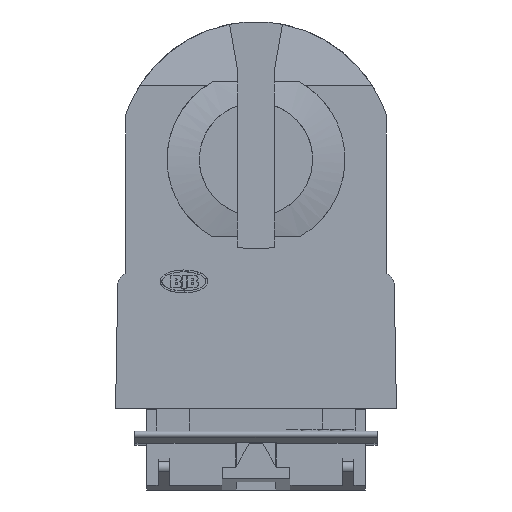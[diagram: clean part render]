
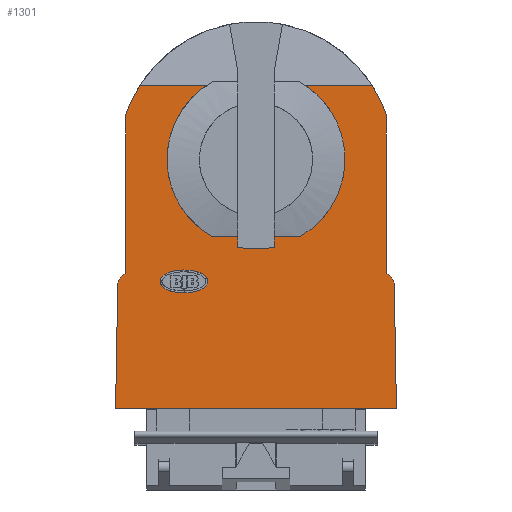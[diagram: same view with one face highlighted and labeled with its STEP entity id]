
A CAD part, front view. The second image highlights one B-rep face of the part: STEP entity #1301.
In plain terms, the highlighted planar face has unit normal (0, -1, 0).
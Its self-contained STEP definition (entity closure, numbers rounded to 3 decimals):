
#121=CARTESIAN_POINT(' ',(-12.4,0.,-22.));
#126=DIRECTION(' ',(1.,0.,0.));
#131=VECTOR(' ',#126,1.);
#136=LINE(' ',#121,#131);
#141=CARTESIAN_POINT(' ',(-12.4,0.,-22.));
#142=VERTEX_POINT(' ',#141);
#146=CARTESIAN_POINT(' ',(12.4,0.,-22.));
#147=VERTEX_POINT(' ',#146);
#151=EDGE_CURVE(' ',#142,#147,#136,.T.);
#466=CARTESIAN_POINT(' ',(-12.4,0.,6.479));
#471=DIRECTION(' ',(0.,-1.,0.));
#476=DIRECTION(' ',(0.,0.,-1.));
#481=AXIS2_PLACEMENT_3D(' ',#466,#471,#476);
#486=PLANE(' ',#481);
#491=CARTESIAN_POINT(' ',(0.,0.,0.));
#496=DIRECTION(' ',(0.,1.,0.));
#501=DIRECTION(' ',(0.202,0.,-0.979));
#506=AXIS2_PLACEMENT_3D(' ',#491,#496,#501);
#511=CIRCLE(' ',#506,7.925);
#516=CARTESIAN_POINT(' ',(1.6,0.,-7.762));
#517=VERTEX_POINT(' ',#516);
#521=CARTESIAN_POINT(' ',(-1.6,0.,-7.762));
#522=VERTEX_POINT(' ',#521);
#526=EDGE_CURVE(' ',#517,#522,#511,.T.);
#531=ORIENTED_EDGE(' ',*,*,#526,.T.);
#536=CARTESIAN_POINT(' ',(-1.6,0.,-7.762));
#541=DIRECTION(' ',(0.,0.,1.));
#546=VECTOR(' ',#541,1.);
#551=LINE(' ',#536,#546);
#556=CARTESIAN_POINT(' ',(-1.6,0.,-6.85));
#557=VERTEX_POINT(' ',#556);
#561=EDGE_CURVE(' ',#522,#557,#551,.T.);
#566=ORIENTED_EDGE(' ',*,*,#561,.T.);
#571=CARTESIAN_POINT(' ',(-1.6,0.,-6.85));
#576=DIRECTION(' ',(-1.,0.,0.));
#581=VECTOR(' ',#576,1.);
#586=LINE(' ',#571,#581);
#591=CARTESIAN_POINT(' ',(-3.834,0.,-6.85));
#592=VERTEX_POINT(' ',#591);
#596=EDGE_CURVE(' ',#557,#592,#586,.T.);
#601=ORIENTED_EDGE(' ',*,*,#596,.T.);
#606=CARTESIAN_POINT(' ',(0.,0.,0.));
#611=DIRECTION(' ',(0.,1.,0.));
#616=DIRECTION(' ',(-0.488,0.,-0.873));
#621=AXIS2_PLACEMENT_3D(' ',#606,#611,#616);
#626=CIRCLE(' ',#621,7.85);
#631=CARTESIAN_POINT(' ',(-4.433,0.,6.479));
#632=VERTEX_POINT(' ',#631);
#636=EDGE_CURVE(' ',#592,#632,#626,.T.);
#641=ORIENTED_EDGE(' ',*,*,#636,.T.);
#646=CARTESIAN_POINT(' ',(-4.433,0.,6.479));
#651=DIRECTION(' ',(-1.,0.,0.));
#656=VECTOR(' ',#651,1.);
#661=LINE(' ',#646,#656);
#666=CARTESIAN_POINT(' ',(-10.279,0.,6.479));
#667=VERTEX_POINT(' ',#666);
#671=EDGE_CURVE(' ',#632,#667,#661,.T.);
#676=ORIENTED_EDGE(' ',*,*,#671,.T.);
#681=CARTESIAN_POINT(' ',(0.,0.,0.));
#686=DIRECTION(' ',(0.,-1.,0.));
#691=DIRECTION(' ',(-0.846,0.,0.533));
#696=AXIS2_PLACEMENT_3D(' ',#681,#686,#691);
#701=CIRCLE(' ',#696,12.15);
#706=CARTESIAN_POINT(' ',(-11.5,0.,3.921));
#707=VERTEX_POINT(' ',#706);
#711=EDGE_CURVE(' ',#667,#707,#701,.T.);
#716=ORIENTED_EDGE(' ',*,*,#711,.T.);
#721=CARTESIAN_POINT(' ',(-11.5,0.,3.921));
#726=DIRECTION(' ',(0.,0.,-1.));
#731=VECTOR(' ',#726,1.);
#736=LINE(' ',#721,#731);
#741=CARTESIAN_POINT(' ',(-11.5,0.,-10.1));
#742=VERTEX_POINT(' ',#741);
#746=EDGE_CURVE(' ',#707,#742,#736,.T.);
#751=ORIENTED_EDGE(' ',*,*,#746,.T.);
#756=CARTESIAN_POINT(' ',(-11.11,0.,-11.129));
#761=DIRECTION(' ',(0.,-1.,0.));
#766=DIRECTION(' ',(-0.354,0.,0.935));
#771=AXIS2_PLACEMENT_3D(' ',#756,#761,#766);
#776=CIRCLE(' ',#771,1.1);
#781=CARTESIAN_POINT(' ',(-12.21,0.,-11.109));
#782=VERTEX_POINT(' ',#781);
#786=EDGE_CURVE(' ',#742,#782,#776,.T.);
#791=ORIENTED_EDGE(' ',*,*,#786,.T.);
#796=CARTESIAN_POINT(' ',(-12.21,0.,-11.109));
#801=DIRECTION(' ',(-0.017,0.,-1.));
#806=VECTOR(' ',#801,1.);
#811=LINE(' ',#796,#806);
#816=EDGE_CURVE(' ',#782,#142,#811,.T.);
#821=ORIENTED_EDGE(' ',*,*,#816,.T.);
#826=ORIENTED_EDGE(' ',*,*,#151,.T.);
#831=CARTESIAN_POINT(' ',(12.4,0.,-22.));
#836=DIRECTION(' ',(-0.017,0.,1.));
#841=VECTOR(' ',#836,1.);
#846=LINE(' ',#831,#841);
#851=CARTESIAN_POINT(' ',(12.21,0.,-11.109));
#852=VERTEX_POINT(' ',#851);
#856=EDGE_CURVE(' ',#147,#852,#846,.T.);
#861=ORIENTED_EDGE(' ',*,*,#856,.T.);
#866=CARTESIAN_POINT(' ',(11.11,0.,-11.129));
#871=DIRECTION(' ',(0.,-1.,0.));
#876=DIRECTION(' ',(1.,0.,0.017));
#881=AXIS2_PLACEMENT_3D(' ',#866,#871,#876);
#886=CIRCLE(' ',#881,1.1);
#891=CARTESIAN_POINT(' ',(11.5,0.,-10.1));
#892=VERTEX_POINT(' ',#891);
#896=EDGE_CURVE(' ',#852,#892,#886,.T.);
#901=ORIENTED_EDGE(' ',*,*,#896,.T.);
#906=CARTESIAN_POINT(' ',(11.5,0.,-10.1));
#911=DIRECTION(' ',(0.,0.,1.));
#916=VECTOR(' ',#911,1.);
#921=LINE(' ',#906,#916);
#926=CARTESIAN_POINT(' ',(11.5,0.,3.921));
#927=VERTEX_POINT(' ',#926);
#931=EDGE_CURVE(' ',#892,#927,#921,.T.);
#936=ORIENTED_EDGE(' ',*,*,#931,.T.);
#941=CARTESIAN_POINT(' ',(0.,0.,0.));
#946=DIRECTION(' ',(0.,-1.,0.));
#951=DIRECTION(' ',(0.947,0.,0.323));
#956=AXIS2_PLACEMENT_3D(' ',#941,#946,#951);
#961=CIRCLE(' ',#956,12.15);
#966=CARTESIAN_POINT(' ',(10.279,0.,6.479));
#967=VERTEX_POINT(' ',#966);
#971=EDGE_CURVE(' ',#927,#967,#961,.T.);
#976=ORIENTED_EDGE(' ',*,*,#971,.T.);
#981=CARTESIAN_POINT(' ',(10.279,0.,6.479));
#986=DIRECTION(' ',(-1.,0.,0.));
#991=VECTOR(' ',#986,1.);
#996=LINE(' ',#981,#991);
#1001=CARTESIAN_POINT(' ',(4.433,0.,6.479));
#1002=VERTEX_POINT(' ',#1001);
#1006=EDGE_CURVE(' ',#967,#1002,#996,.T.);
#1011=ORIENTED_EDGE(' ',*,*,#1006,.T.);
#1016=CARTESIAN_POINT(' ',(0.,0.,0.));
#1021=DIRECTION(' ',(0.,1.,0.));
#1026=DIRECTION(' ',(0.565,0.,0.825));
#1031=AXIS2_PLACEMENT_3D(' ',#1016,#1021,#1026);
#1036=CIRCLE(' ',#1031,7.85);
#1041=CARTESIAN_POINT(' ',(3.834,0.,-6.85));
#1042=VERTEX_POINT(' ',#1041);
#1046=EDGE_CURVE(' ',#1002,#1042,#1036,.T.);
#1051=ORIENTED_EDGE(' ',*,*,#1046,.T.);
#1056=CARTESIAN_POINT(' ',(3.834,0.,-6.85));
#1061=DIRECTION(' ',(-1.,0.,0.));
#1066=VECTOR(' ',#1061,1.);
#1071=LINE(' ',#1056,#1066);
#1076=CARTESIAN_POINT(' ',(1.6,0.,-6.85));
#1077=VERTEX_POINT(' ',#1076);
#1081=EDGE_CURVE(' ',#1042,#1077,#1071,.T.);
#1086=ORIENTED_EDGE(' ',*,*,#1081,.T.);
#1091=CARTESIAN_POINT(' ',(1.6,0.,-6.85));
#1096=DIRECTION(' ',(0.,0.,-1.));
#1101=VECTOR(' ',#1096,1.);
#1106=LINE(' ',#1091,#1101);
#1111=EDGE_CURVE(' ',#1077,#517,#1106,.T.);
#1116=ORIENTED_EDGE(' ',*,*,#1111,.T.);
#1121=EDGE_LOOP(' ',(#531,#566,#601,#641,#676,#716,#751,#791,#821,#826,#861,#901,#936,#976,#1011,#1051,#1086,#1116));
#1126=FACE_OUTER_BOUND(' ',#1121,.T.);
#1131=CARTESIAN_POINT(' ',(-6.365,0.,-9.772));
#1136=CARTESIAN_POINT(' ',(-6.795,0.,-9.772));
#1141=CARTESIAN_POINT(' ',(-7.332,0.,-9.839));
#1146=CARTESIAN_POINT(' ',(-8.117,0.,-10.163));
#1151=CARTESIAN_POINT(' ',(-8.388,0.,-10.384));
#1156=CARTESIAN_POINT(' ',(-8.492,0.,-10.814));
#1161=CARTESIAN_POINT(' ',(-8.451,0.,-10.973));
#1166=CARTESIAN_POINT(' ',(-8.275,0.,-11.246));
#1171=CARTESIAN_POINT(' ',(-8.147,0.,-11.349));
#1176=CARTESIAN_POINT(' ',(-7.621,0.,-11.641));
#1181=CARTESIAN_POINT(' ',(-7.017,0.,-11.793));
#1186=CARTESIAN_POINT(' ',(-6.365,0.,-11.793));
#1191=B_SPLINE_CURVE_WITH_KNOTS(' ',3,(#1131,#1136,#1141,#1146,#1151,#1156,#1161,#1166,#1171,#1176,#1181,#1186),.UNSPECIFIED.,.F.,.U.,(4,2,2,2,2,4),(0.,0.249,0.456,0.576,0.72,1.),.UNSPECIFIED.);
#1196=CARTESIAN_POINT(' ',(-6.365,0.,-9.772));
#1197=VERTEX_POINT(' ',#1196);
#1201=CARTESIAN_POINT(' ',(-6.365,0.,-11.793));
#1202=VERTEX_POINT(' ',#1201);
#1206=EDGE_CURVE(' ',#1197,#1202,#1191,.T.);
#1211=ORIENTED_EDGE(' ',*,*,#1206,.F.);
#1216=CARTESIAN_POINT(' ',(-6.365,0.,-11.793));
#1221=CARTESIAN_POINT(' ',(-5.785,0.,-11.793));
#1226=CARTESIAN_POINT(' ',(-5.234,0.,-11.673));
#1231=CARTESIAN_POINT(' ',(-4.682,0.,-11.416));
#1236=CARTESIAN_POINT(' ',(-4.541,0.,-11.32));
#1241=CARTESIAN_POINT(' ',(-4.312,0.,-11.056));
#1246=CARTESIAN_POINT(' ',(-4.234,0.,-10.873));
#1251=CARTESIAN_POINT(' ',(-4.322,0.,-10.411));
#1256=CARTESIAN_POINT(' ',(-4.583,0.,-10.183));
#1261=CARTESIAN_POINT(' ',(-5.367,0.,-9.844));
#1266=CARTESIAN_POINT(' ',(-5.923,0.,-9.772));
#1271=CARTESIAN_POINT(' ',(-6.365,0.,-9.772));
#1276=B_SPLINE_CURVE_WITH_KNOTS(' ',3,(#1216,#1221,#1226,#1231,#1236,#1241,#1246,#1251,#1256,#1261,#1266,#1271),.UNSPECIFIED.,.F.,.U.,(4,2,2,2,2,4),(0.,0.249,0.393,0.537,0.744,1.),.UNSPECIFIED.);
#1281=EDGE_CURVE(' ',#1202,#1197,#1276,.T.);
#1286=ORIENTED_EDGE(' ',*,*,#1281,.F.);
#1291=EDGE_LOOP(' ',(#1211,#1286));
#1296=FACE_BOUND(' ',#1291,.T.);
#1301=ADVANCED_FACE(' ',(#1126,#1296),#486,.T.);
